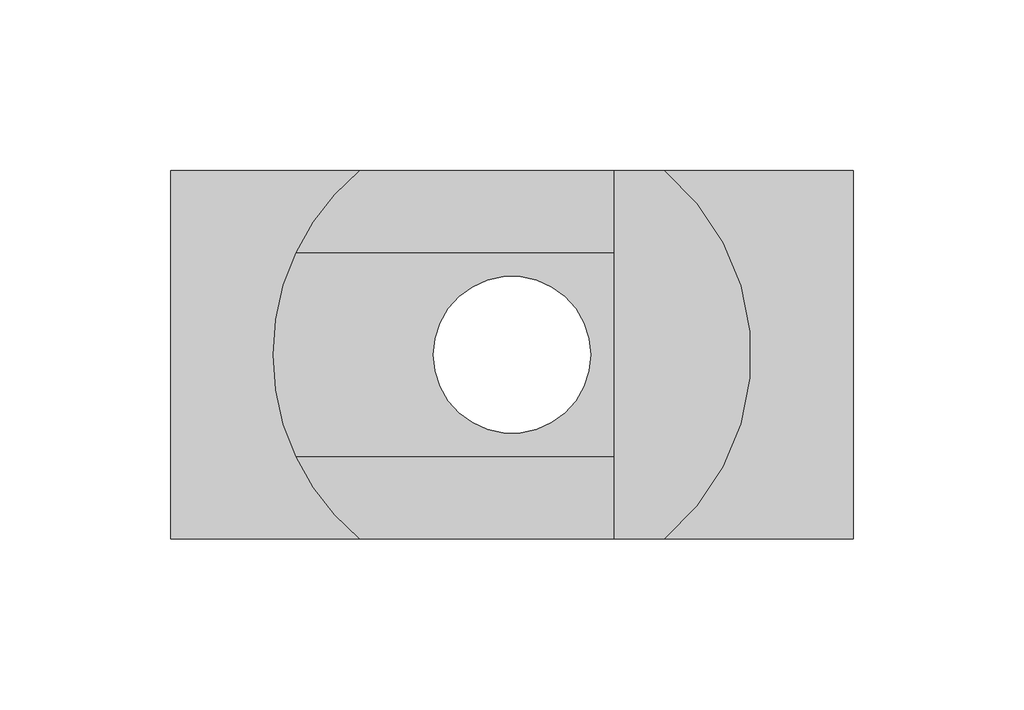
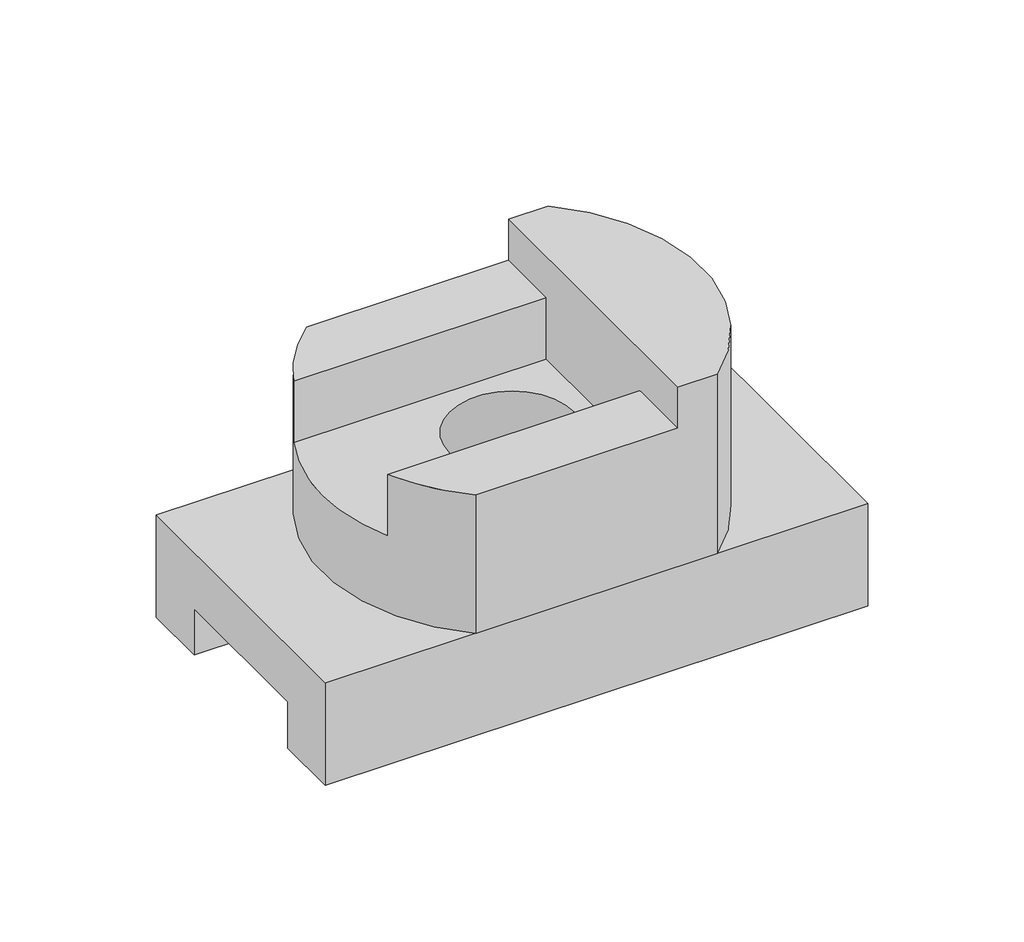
# One storey: 1 proxy.
"""IFC4 building model written with IfcOpenShell, lengths in millimetres."""

from ifc_helpers import new_model, si_unit, origin, place, context, project, spatial, transform, mapped, element, save
from components import generic_models_49068c69

model = new_model("IFC4")

# Units and contexts
model_context = context("Model", 3, world=origin())
ifc_project = project(units=[si_unit("LENGTHUNIT", "METRE", prefix="MILLI")], contexts=[model_context])

# Site, building, storey
site = spatial("IfcSite", under=ifc_project)
building = spatial("IfcBuilding", under=site)
storey = spatial("IfcBuildingStorey", under=building, Name="标高 1", Elevation=0.0)

# Proxy
placement = place(None, origin())
generic_models_shape = generic_models_49068c69(model_context)
element("IfcBuildingElementProxy", 1, Name="族5-11-1 : 族5-11-1", ObjectType="族5-11-1 : 族5-11-1", at=placement, inside=storey, context=model_context, shape_type="MappedRepresentation", body=[
    mapped(generic_models_shape, transform((-1066.5661644, 853.8563081, 0.0), x_axis=(1.0, 0.0, 0.0), y_axis=(0.0, 1.0, 0.0), z_axis=(0.0, 0.0, 1.0))),
])

save(model, "model.ifc")
